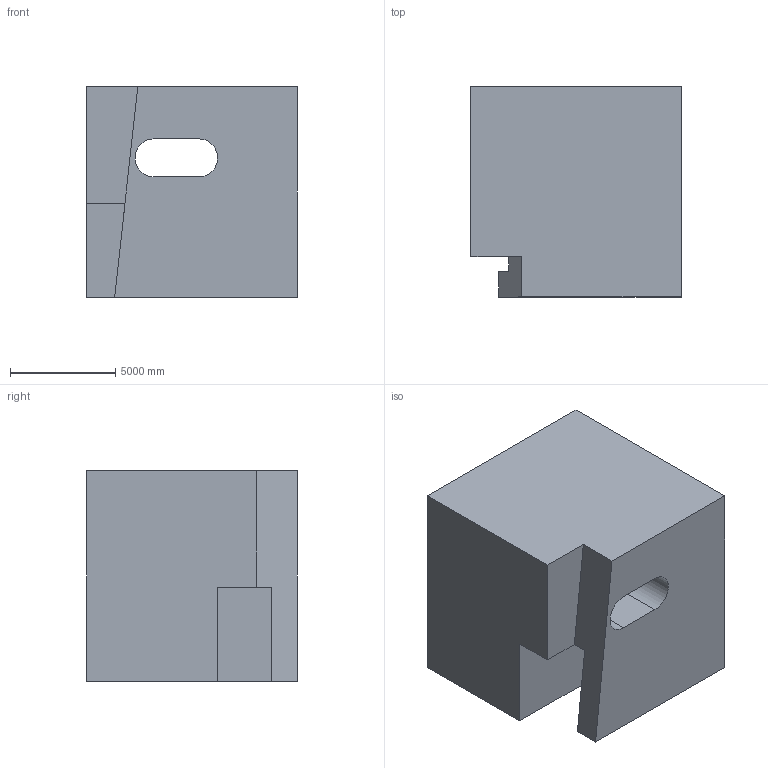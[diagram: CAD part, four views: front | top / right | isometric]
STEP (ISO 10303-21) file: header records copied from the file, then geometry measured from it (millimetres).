
FILE_DESCRIPTION (( 'STEP AP203' ), '1' );
FILE_NAME ('294.STEP', '2022-07-28T14:14:22', ( 'user' ), ( '' ), 'SwSTEP 2.0', 'SolidWorks 2021', '' );
FILE_SCHEMA (( 'CONFIG_CONTROL_DESIGN' ));
Length unit declared in the file: centimetre
Products named in the file (1): 294
Bounding box: 10000 x 10000 x 10000 mm (x, y, z)
Volume: 835010613341.3 mm3; surface area: 719443412.7 mm2
Topology: 1 solids, 1 shells, 16 faces, 42 edges, 28 vertices
Faces by surface type: plane 14, cylinder 2
Entity records: 571 total; most frequent: CARTESIAN_POINT 87, ORIENTED_EDGE 84, DIRECTION 80, EDGE_CURVE 42, VECTOR 38, LINE 38, VERTEX_POINT 28, AXIS2_PLACEMENT_3D 21
